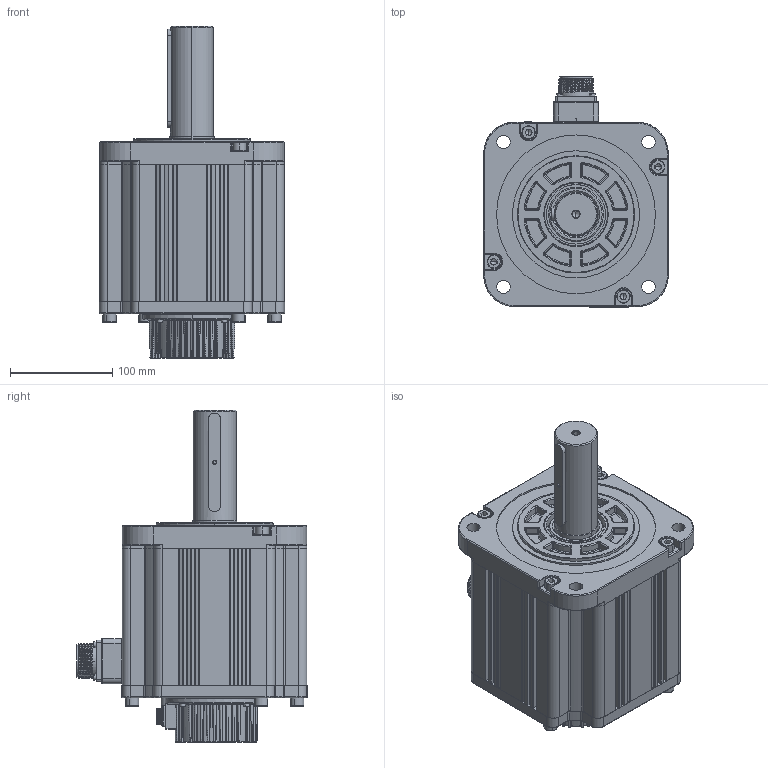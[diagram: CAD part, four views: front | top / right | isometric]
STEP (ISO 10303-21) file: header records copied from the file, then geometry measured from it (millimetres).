
FILE_DESCRIPTION (( 'STEP AP214' ), '1' );
FILE_NAME ('V7E-M18D-4R415-D1BH.STEP', '2021-08-10T03:50:36', ( '' ), ( '' ), 'SwSTEP 2.0', 'SolidWorks 2014', '' );
FILE_SCHEMA (( 'AUTOMOTIVE_DESIGN' ));
Length unit declared in the file: millimetre
Products named in the file (16): 180#綴傷裔; SC180瑤脣釱1015; SC晤鎢ん欶200908_10郋; 180#陔隅赽201019; す瑩^180#陔萇儂-拸价陬 201021; SC180儂褲1009; V7E-M18D-4R415-D1BH; SCCMS3102A22-22P-Z; 埴芛囀鞠褒 ISO 4762 M8 x 30 --- 30N; SC蚐猾 D00B999YF8-TC 44-62-10; SC180ヶ傷裔1009; 坋趼攫芛蹟佪 M2X8-8  H type-N; 埴芛囀鞠褒 ISO 4762 M3 x 10 --- 10N; SCSC瑤諾脣芛 16M-9H; 埴芛囀鞠褒 ISO 4762 M3 x 30 --- 18N; 180粣-47沺郋
Assembly tree (31 placements, depth 3):
  V7E-M18D-4R415-D1BH
    180#陔隅赽201019
      SC180儂褲1009
      SC180ヶ傷裔1009
      SCCMS3102A22-22P-Z
      SC180瑤脣釱1015
    SC晤鎢ん欶200908_10郋
    SCSC瑤諾脣芛 16M-9H
    SC蚐猾 D00B999YF8-TC 44-62-10
    坋趼攫芛蹟佪 M2X8-8  H type-N  x4
    埴芛囀鞠褒 ISO 4762 M3 x 10 --- 10N  x4
    埴芛囀鞠褒 ISO 4762 M8 x 30 --- 30N  x8
    埴芛囀鞠褒 ISO 4762 M3 x 30 --- 18N  x4
    180粣-47沺郋
    180#綴傷裔
    す瑩^180#陔萇儂-拸价陬 201021
Bounding box: 180.95 x 225.07 x 324 mm (x, y, z)
Volume: 1945847.1 mm3; surface area: 510622.8 mm2
Topology: 30 solids, 30 shells, 3135 faces, 7514 edges, 4341 vertices
Faces by surface type: bspline 1025, cylinder 1021, plane 762, cone 259, torus 64, sphere 4
Entity records: 139274 total; most frequent: CARTESIAN_POINT 54841, ORIENTED_EDGE 12746, DIRECTION 10739, EDGE_CURVE 6373, AXIS2_PLACEMENT_3D 4324, VERTEX_POINT 3786, EDGE_LOOP 2897, FACE_OUTER_BOUND 2712
